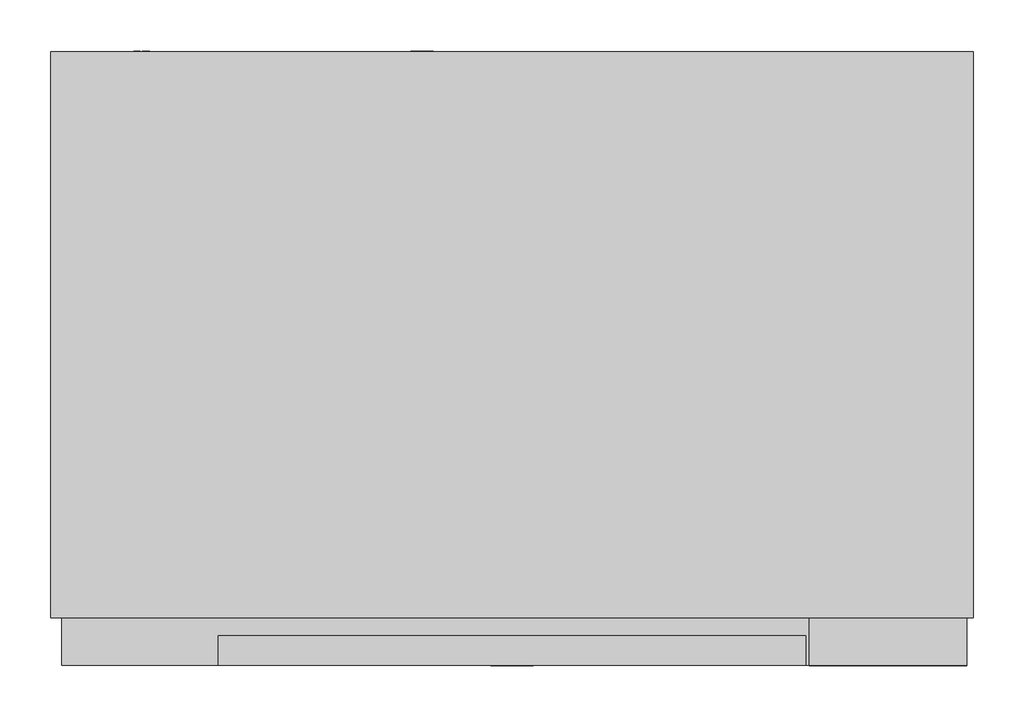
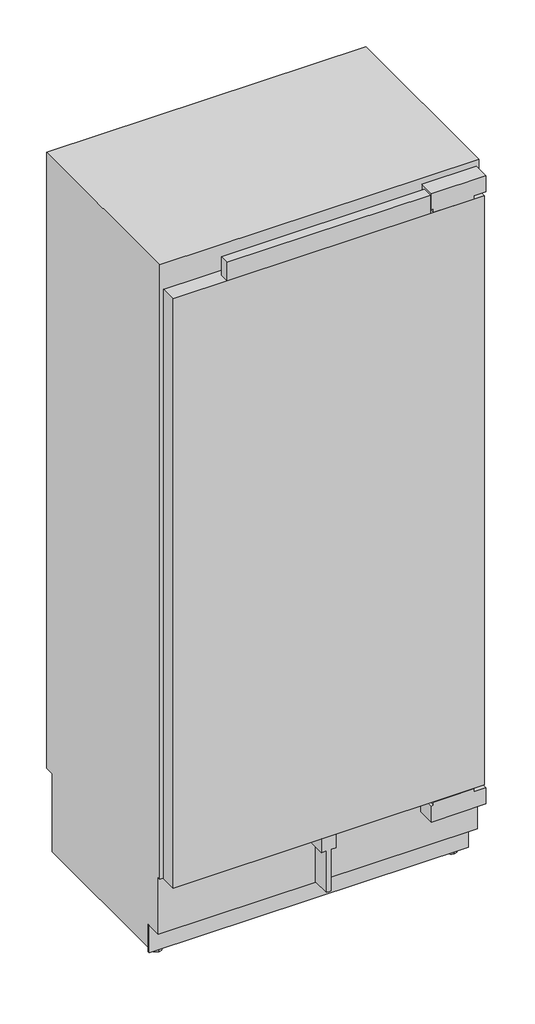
# Not in any storey: 1 proxy.
"""IFC4 building model written with IfcOpenShell, lengths in millimetres."""

from ifc_helpers import new_model, si_unit, origin, place, context, project, spatial, transform, mapped, element, save
from components import specialty_equipment_eeb248f6

model = new_model("IFC4")

# Units and contexts
model_context = context("Model", 3, world=origin())
ifc_project = project(units=[si_unit("LENGTHUNIT", "METRE", prefix="MILLI")], contexts=[model_context])

# Site, building
site = spatial("IfcSite", under=ifc_project)
building = spatial("IfcBuilding", under=site)

# Proxy
placement = place(None, origin())
specialty_equipment_shape = specialty_equipment_eeb248f6(model_context)
element("IfcBuildingElementProxy", 1, Name="11503360_USA_F2902Vi : 37290201_USA_11503360_F2902Vi", ObjectType="11503360_USA_F2902Vi : 37290201_USA_11503360_F2902Vi", at=placement, inside=building, context=model_context, shape_type="MappedRepresentation", body=[
    mapped(specialty_equipment_shape, transform((0.0, 0.0, 0.0), x_axis=(1.0, 0.0, 0.0), y_axis=(0.0, 1.0, 0.0), z_axis=(0.0, 0.0, 1.0))),
])

save(model, "model.ifc")
